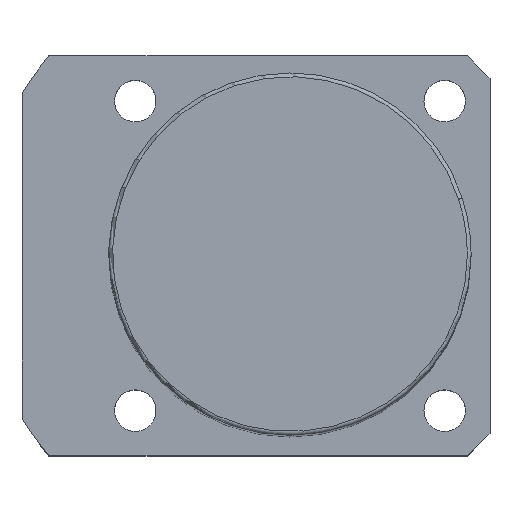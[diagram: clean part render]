
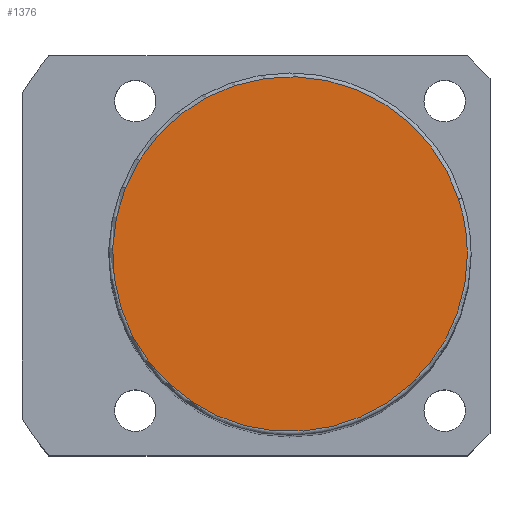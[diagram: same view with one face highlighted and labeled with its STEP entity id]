
A CAD part, top view. The second image highlights one B-rep face of the part: STEP entity #1376.
In plain terms, the highlighted planar face has unit normal (0, 0, 1).
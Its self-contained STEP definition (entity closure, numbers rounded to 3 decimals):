
#1309=CARTESIAN_POINT('',(22.35,7.262,144.0));
#1310=VERTEX_POINT('',#1309);
#1328=CARTESIAN_POINT('',(-22.35,-7.262,144.0));
#1329=VERTEX_POINT('',#1328);
#1337=CARTESIAN_POINT('',(0.0,0.0,144.0));
#1338=DIRECTION('',(0.0,0.0,1.0));
#1339=DIRECTION('',(1.0,0.0,0.0));
#1340=AXIS2_PLACEMENT_3D('',#1337,#1338,#1339);
#1341=CIRCLE('',#1340,23.5);
#1342=EDGE_CURVE('no 1865',#1310,#1329,#1341,.T.);
#1352=CARTESIAN_POINT('',(23.5,0.0,144.0));
#1353=VERTEX_POINT('',#1352);
#1354=CARTESIAN_POINT('',(0.0,0.0,144.0));
#1355=DIRECTION('',(0.0,0.0,1.0));
#1356=DIRECTION('',(1.0,0.0,0.0));
#1357=AXIS2_PLACEMENT_3D('',#1354,#1355,#1356);
#1358=CIRCLE('',#1357,23.5);
#1359=EDGE_CURVE('no 1874',#1353,#1310,#1358,.T.);
#1360=ORIENTED_EDGE('',*,*,#1359,.T.);
#1361=ORIENTED_EDGE('',*,*,#1342,.T.);
#1362=CARTESIAN_POINT('',(0.0,0.0,144.0));
#1363=DIRECTION('',(0.0,0.0,1.0));
#1364=DIRECTION('',(1.0,0.0,0.0));
#1365=AXIS2_PLACEMENT_3D('',#1362,#1363,#1364);
#1366=CIRCLE('',#1365,23.5);
#1367=EDGE_CURVE('no 1880',#1329,#1353,#1366,.T.);
#1368=ORIENTED_EDGE('',*,*,#1367,.T.);
#1369=EDGE_LOOP('',(#1360,#1361,#1368));
#1370=FACE_OUTER_BOUND('',#1369,.T.);
#1371=CARTESIAN_POINT('',(0.0,0.0,144.0));
#1372=DIRECTION('',(0.0,0.0,1.0));
#1373=DIRECTION('',(1.0,0.0,0.0));
#1374=AXIS2_PLACEMENT_3D('',#1371,#1372,#1373);
#1375=PLANE('',#1374);
#1376=ADVANCED_FACE('no 1867',(#1370),#1375,.T.);
